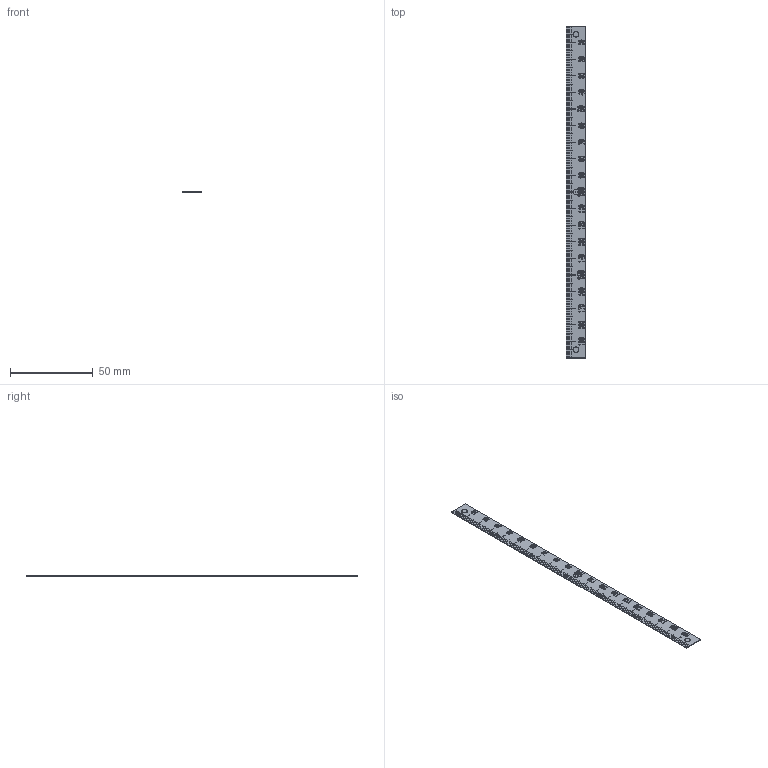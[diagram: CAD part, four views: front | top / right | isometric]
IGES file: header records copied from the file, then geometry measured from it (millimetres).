
Start section: SolidWorks IGES file using analytic representation for surfaces
Global section: file name: Y:\5.更新分\2023年対応\04xx_ALL\E\ES1N-U200L\es1n-u200l.IGS; native system: SolidWorks 2021; preprocessor: SolidWorks 2021; author: ImaoCorp; date: 230615.160323; units: millimetre
Bounding box: 12 x 200 x 0.5 mm (x, y, z)
Surface area: 5031.9 mm2 (no closed solid volume)
Topology: 0 solids, 0 shells, 1651 faces, 17412 edges, 17412 vertices
Faces by surface type: bspline 1635, revolution 16
